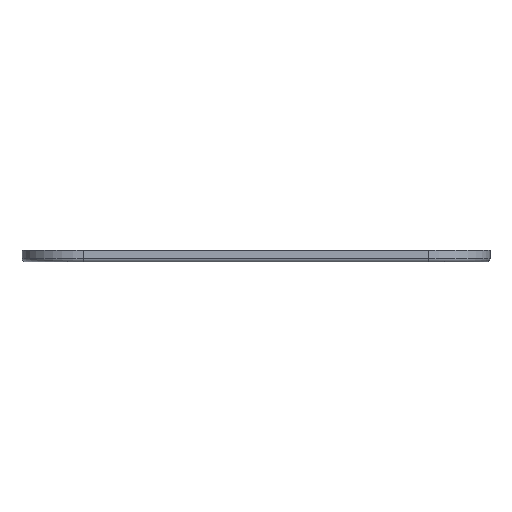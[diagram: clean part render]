
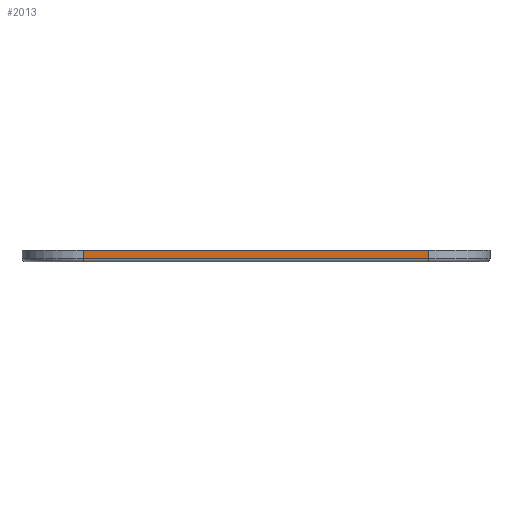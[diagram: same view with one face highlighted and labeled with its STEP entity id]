
A CAD part, front view. The second image highlights one B-rep face of the part: STEP entity #2013.
In plain terms, the highlighted planar face has unit normal (0, -1, 0).
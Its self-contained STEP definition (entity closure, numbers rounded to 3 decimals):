
#44 = CYLINDRICAL_SURFACE('',#45,21.);
#45 = AXIS2_PLACEMENT_3D('',#46,#47,#48);
#46 = CARTESIAN_POINT('',(-59.,-40.,0.));
#47 = DIRECTION('',(-0.,-0.,-1.));
#48 = DIRECTION('',(1.,0.,0.));
#72 = PLANE('',#73);
#73 = AXIS2_PLACEMENT_3D('',#74,#75,#76);
#74 = CARTESIAN_POINT('',(0.,0.,4.));
#75 = DIRECTION('',(0.,0.,1.));
#76 = DIRECTION('',(1.,0.,-0.));
#143 = VERTEX_POINT('',#144);
#144 = CARTESIAN_POINT('',(-59.,-61.,4.));
#166 = EDGE_CURVE('',#167,#143,#169,.T.);
#167 = VERTEX_POINT('',#168);
#168 = CARTESIAN_POINT('',(-59.,-61.,1.2));
#169 = SURFACE_CURVE('',#170,(#174,#181),.PCURVE_S1.);
#170 = LINE('',#171,#172);
#171 = CARTESIAN_POINT('',(-59.,-61.,0.));
#172 = VECTOR('',#173,1.);
#173 = DIRECTION('',(0.,0.,1.));
#174 = PCURVE('',#44,#175);
#175 = DEFINITIONAL_REPRESENTATION('',(#176),#180);
#176 = LINE('',#177,#178);
#177 = CARTESIAN_POINT('',(-4.712,0.));
#178 = VECTOR('',#179,1.);
#179 = DIRECTION('',(-0.,-1.));
#180 = ( GEOMETRIC_REPRESENTATION_CONTEXT(2) 
PARAMETRIC_REPRESENTATION_CONTEXT() REPRESENTATION_CONTEXT('2D SPACE',''
  ) );
#181 = PCURVE('',#182,#187);
#182 = PLANE('',#183);
#183 = AXIS2_PLACEMENT_3D('',#184,#185,#186);
#184 = CARTESIAN_POINT('',(-59.,-61.,0.));
#185 = DIRECTION('',(0.,1.,0.));
#186 = DIRECTION('',(1.,0.,0.));
#187 = DEFINITIONAL_REPRESENTATION('',(#188),#192);
#188 = LINE('',#189,#190);
#189 = CARTESIAN_POINT('',(0.,0.));
#190 = VECTOR('',#191,1.);
#191 = DIRECTION('',(0.,-1.));
#192 = ( GEOMETRIC_REPRESENTATION_CONTEXT(2) 
PARAMETRIC_REPRESENTATION_CONTEXT() REPRESENTATION_CONTEXT('2D SPACE',''
  ) );
#305 = EDGE_CURVE('',#143,#306,#308,.T.);
#306 = VERTEX_POINT('',#307);
#307 = CARTESIAN_POINT('',(59.,-61.,4.));
#308 = SURFACE_CURVE('',#309,(#313,#320),.PCURVE_S1.);
#309 = LINE('',#310,#311);
#310 = CARTESIAN_POINT('',(0.,-61.,4.));
#311 = VECTOR('',#312,1.);
#312 = DIRECTION('',(1.,0.,0.));
#313 = PCURVE('',#72,#314);
#314 = DEFINITIONAL_REPRESENTATION('',(#315),#319);
#315 = LINE('',#316,#317);
#316 = CARTESIAN_POINT('',(0.,-61.));
#317 = VECTOR('',#318,1.);
#318 = DIRECTION('',(1.,0.));
#319 = ( GEOMETRIC_REPRESENTATION_CONTEXT(2) 
PARAMETRIC_REPRESENTATION_CONTEXT() REPRESENTATION_CONTEXT('2D SPACE',''
  ) );
#320 = PCURVE('',#182,#321);
#321 = DEFINITIONAL_REPRESENTATION('',(#322),#326);
#322 = LINE('',#323,#324);
#323 = CARTESIAN_POINT('',(59.,-4.));
#324 = VECTOR('',#325,1.);
#325 = DIRECTION('',(1.,0.));
#326 = ( GEOMETRIC_REPRESENTATION_CONTEXT(2) 
PARAMETRIC_REPRESENTATION_CONTEXT() REPRESENTATION_CONTEXT('2D SPACE',''
  ) );
#345 = CYLINDRICAL_SURFACE('',#346,21.);
#346 = AXIS2_PLACEMENT_3D('',#347,#348,#349);
#347 = CARTESIAN_POINT('',(59.,-40.,0.));
#348 = DIRECTION('',(-0.,-0.,-1.));
#349 = DIRECTION('',(1.,0.,0.));
#1975 = CYLINDRICAL_SURFACE('',#1976,1.2);
#1976 = AXIS2_PLACEMENT_3D('',#1977,#1978,#1979);
#1977 = CARTESIAN_POINT('',(59.,-59.8,1.2));
#1978 = DIRECTION('',(-1.,-0.,-0.));
#1979 = DIRECTION('',(0.,-1.,0.));
#2013 = ADVANCED_FACE('',(#2014),#182,.F.);
#2014 = FACE_BOUND('',#2015,.F.);
#2015 = EDGE_LOOP('',(#2016,#2017,#2018,#2041));
#2016 = ORIENTED_EDGE('',*,*,#166,.T.);
#2017 = ORIENTED_EDGE('',*,*,#305,.T.);
#2018 = ORIENTED_EDGE('',*,*,#2019,.F.);
#2019 = EDGE_CURVE('',#2020,#306,#2022,.T.);
#2020 = VERTEX_POINT('',#2021);
#2021 = CARTESIAN_POINT('',(59.,-61.,1.2));
#2022 = SURFACE_CURVE('',#2023,(#2027,#2034),.PCURVE_S1.);
#2023 = LINE('',#2024,#2025);
#2024 = CARTESIAN_POINT('',(59.,-61.,0.));
#2025 = VECTOR('',#2026,1.);
#2026 = DIRECTION('',(0.,0.,1.));
#2027 = PCURVE('',#182,#2028);
#2028 = DEFINITIONAL_REPRESENTATION('',(#2029),#2033);
#2029 = LINE('',#2030,#2031);
#2030 = CARTESIAN_POINT('',(118.,0.));
#2031 = VECTOR('',#2032,1.);
#2032 = DIRECTION('',(0.,-1.));
#2033 = ( GEOMETRIC_REPRESENTATION_CONTEXT(2) 
PARAMETRIC_REPRESENTATION_CONTEXT() REPRESENTATION_CONTEXT('2D SPACE',''
  ) );
#2034 = PCURVE('',#345,#2035);
#2035 = DEFINITIONAL_REPRESENTATION('',(#2036),#2040);
#2036 = LINE('',#2037,#2038);
#2037 = CARTESIAN_POINT('',(-4.712,0.));
#2038 = VECTOR('',#2039,1.);
#2039 = DIRECTION('',(-0.,-1.));
#2040 = ( GEOMETRIC_REPRESENTATION_CONTEXT(2) 
PARAMETRIC_REPRESENTATION_CONTEXT() REPRESENTATION_CONTEXT('2D SPACE',''
  ) );
#2041 = ORIENTED_EDGE('',*,*,#2042,.T.);
#2042 = EDGE_CURVE('',#2020,#167,#2043,.T.);
#2043 = SURFACE_CURVE('',#2044,(#2048,#2055),.PCURVE_S1.);
#2044 = LINE('',#2045,#2046);
#2045 = CARTESIAN_POINT('',(59.,-61.,1.2));
#2046 = VECTOR('',#2047,1.);
#2047 = DIRECTION('',(-1.,-0.,-0.));
#2048 = PCURVE('',#182,#2049);
#2049 = DEFINITIONAL_REPRESENTATION('',(#2050),#2054);
#2050 = LINE('',#2051,#2052);
#2051 = CARTESIAN_POINT('',(118.,-1.2));
#2052 = VECTOR('',#2053,1.);
#2053 = DIRECTION('',(-1.,0.));
#2054 = ( GEOMETRIC_REPRESENTATION_CONTEXT(2) 
PARAMETRIC_REPRESENTATION_CONTEXT() REPRESENTATION_CONTEXT('2D SPACE',''
  ) );
#2055 = PCURVE('',#1975,#2056);
#2056 = DEFINITIONAL_REPRESENTATION('',(#2057),#2061);
#2057 = LINE('',#2058,#2059);
#2058 = CARTESIAN_POINT('',(-0.,0.));
#2059 = VECTOR('',#2060,1.);
#2060 = DIRECTION('',(-0.,1.));
#2061 = ( GEOMETRIC_REPRESENTATION_CONTEXT(2) 
PARAMETRIC_REPRESENTATION_CONTEXT() REPRESENTATION_CONTEXT('2D SPACE',''
  ) );
